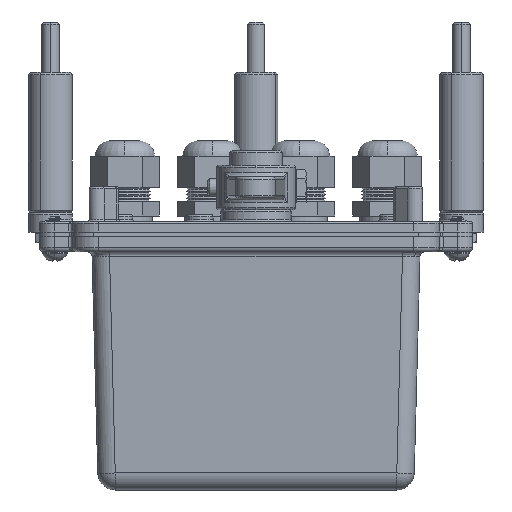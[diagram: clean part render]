
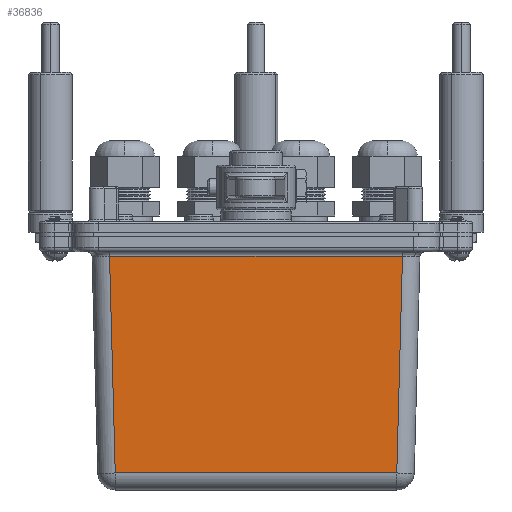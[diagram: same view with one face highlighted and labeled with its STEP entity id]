
A CAD part, front view. The second image highlights one B-rep face of the part: STEP entity #36836.
In plain terms, the highlighted planar face has unit normal (0, -1, -0.026).
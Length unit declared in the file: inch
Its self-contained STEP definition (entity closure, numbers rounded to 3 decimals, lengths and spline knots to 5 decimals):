
#3718 = CARTESIAN_POINT ( 'NONE',  ( -2.09195, -2.34186, -0.34586 ) ) ;
#5382 = VECTOR ( 'NONE', #27110, 39.37008 ) ;
#10083 = CARTESIAN_POINT ( 'NONE',  ( 2.35, -2.35, -0.035 ) ) ;
#13699 = CARTESIAN_POINT ( 'NONE',  ( 2.10026, -2.35017, -0.02846 ) ) ;
#13709 = EDGE_CURVE ( 'NONE', #19021, #16765, #36627, .T. ) ;
#14848 = CARTESIAN_POINT ( 'NONE',  ( 2.35, -2.2608, -3.44154 ) ) ;
#16765 = VERTEX_POINT ( 'NONE', #32563 ) ;
#19021 = VERTEX_POINT ( 'NONE', #42019 ) ;
#19286 = ORIENTED_EDGE ( 'NONE', *, *, #50093, .T. ) ;
#19835 = AXIS2_PLACEMENT_3D ( 'NONE', #10083, #25941, #38135 ) ;
#20092 = EDGE_CURVE ( 'NONE', #45001, #36013, #38081, .T. ) ;
#22341 = VECTOR ( 'NONE', #41986, 39.37008 ) ;
#25941 = DIRECTION ( 'NONE',  ( 0., -1., -0.026 ) ) ;
#26708 = LINE ( 'NONE', #35077, #22341 ) ;
#27110 = DIRECTION ( 'NONE',  ( 0.026, 0.026, -0.999 ) ) ;
#27364 = VECTOR ( 'NONE', #40988, 39.37008 ) ;
#30030 = VECTOR ( 'NONE', #34275, 39.37008 ) ;
#30727 = PLANE ( 'NONE',  #19835 ) ;
#31158 = ORIENTED_EDGE ( 'NONE', *, *, #20092, .T. ) ;
#32563 = CARTESIAN_POINT ( 'NONE',  ( 2.09195, -2.34186, -0.34586 ) ) ;
#33284 = LINE ( 'NONE', #14848, #30030 ) ;
#34275 = DIRECTION ( 'NONE',  ( 1., 0., 0. ) ) ;
#35077 = CARTESIAN_POINT ( 'NONE',  ( 2.35, -2.34186, -0.34586 ) ) ;
#36013 = VERTEX_POINT ( 'NONE', #46464 ) ;
#36627 = LINE ( 'NONE', #13699, #27364 ) ;
#36836 = ADVANCED_FACE ( 'NONE', ( #46015 ), #30727, .T. ) ;
#37015 = ORIENTED_EDGE ( 'NONE', *, *, #13709, .T. ) ;
#38081 = LINE ( 'NONE', #50042, #5382 ) ;
#38135 = DIRECTION ( 'NONE',  ( 0., -0.026, 1. ) ) ;
#38284 = ORIENTED_EDGE ( 'NONE', *, *, #47357, .T. ) ;
#39559 = EDGE_LOOP ( 'NONE', ( #37015, #19286, #31158, #38284 ) ) ;
#40988 = DIRECTION ( 'NONE',  ( 0.026, -0.026, 0.999 ) ) ;
#41986 = DIRECTION ( 'NONE',  ( -1., 0., 0. ) ) ;
#42019 = CARTESIAN_POINT ( 'NONE',  ( 2.01088, -2.2608, -3.44154 ) ) ;
#45001 = VERTEX_POINT ( 'NONE', #3718 ) ;
#46015 = FACE_OUTER_BOUND ( 'NONE', #39559, .T. ) ;
#46464 = CARTESIAN_POINT ( 'NONE',  ( -2.01088, -2.2608, -3.44154 ) ) ;
#47357 = EDGE_CURVE ( 'NONE', #36013, #19021, #33284, .T. ) ;
#50042 = CARTESIAN_POINT ( 'NONE',  ( -2.09704, -2.34695, -0.15137 ) ) ;
#50093 = EDGE_CURVE ( 'NONE', #16765, #45001, #26708, .T. ) ;
